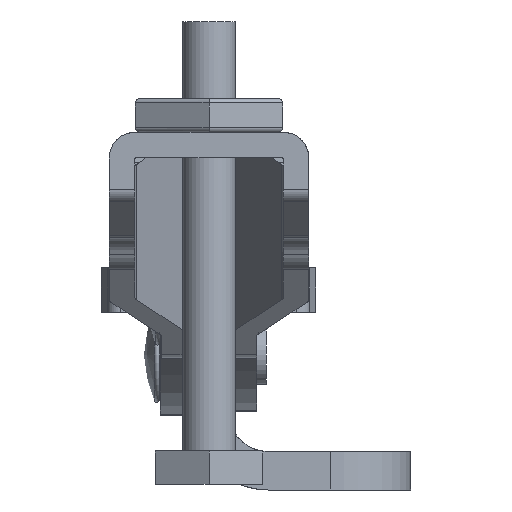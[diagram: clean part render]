
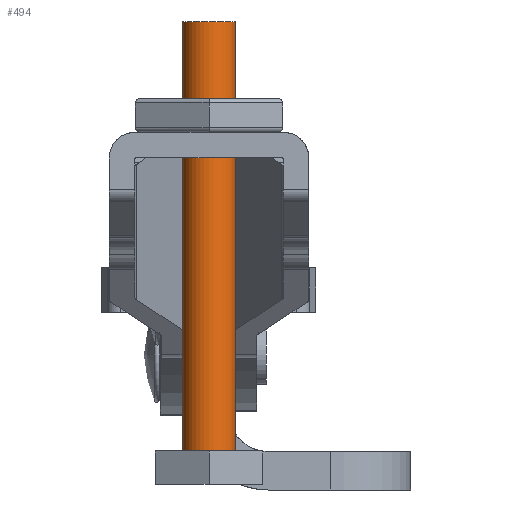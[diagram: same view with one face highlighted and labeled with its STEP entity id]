
A CAD part, left-side view. The second image highlights one B-rep face of the part: STEP entity #494.
In plain terms, the highlighted cylindrical face has radius 1.587 mm (diameter 3.175 mm), a full revolution.
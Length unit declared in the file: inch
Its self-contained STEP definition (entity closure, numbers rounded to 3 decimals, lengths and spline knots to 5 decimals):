
#290=CYLINDRICAL_SURFACE('',#4025,0.0625);
#494=ADVANCED_FACE('',(#1366,#1367),#290,.T.);
#1366=FACE_BOUND('',#1649,.T.);
#1367=FACE_BOUND('',#1650,.T.);
#1649=EDGE_LOOP('',(#2615));
#1650=EDGE_LOOP('',(#2616));
#2615=ORIENTED_EDGE('',*,*,#3445,.T.);
#2616=ORIENTED_EDGE('',*,*,#3446,.T.);
#2962=VERTEX_POINT('',#7029);
#2963=VERTEX_POINT('',#7032);
#3445=EDGE_CURVE('',#2962,#2962,#3610,.T.);
#3446=EDGE_CURVE('',#2963,#2963,#3611,.T.);
#3610=CIRCLE('',#4022,0.0625);
#3611=CIRCLE('',#4024,0.0625);
#4022=AXIS2_PLACEMENT_3D('',#7028,#5039,#5040);
#4024=AXIS2_PLACEMENT_3D('',#7031,#5043,#5044);
#4025=AXIS2_PLACEMENT_3D('',#7033,#5045,#5046);
#5039=DIRECTION('',(0.,0.,1.));
#5040=DIRECTION('',(0.,1.,0.));
#5043=DIRECTION('',(0.,0.,-1.));
#5044=DIRECTION('',(-1.,0.,0.));
#5045=DIRECTION('',(0.,0.,-1.));
#5046=DIRECTION('',(-1.,0.,0.));
#7028=CARTESIAN_POINT('',(-1.0649,0.28318,0.09097));
#7029=CARTESIAN_POINT('',(-1.0649,0.34568,0.09097));
#7031=CARTESIAN_POINT('',(-1.0649,0.28318,1.09097));
#7032=CARTESIAN_POINT('',(-1.1274,0.28318,1.09097));
#7033=CARTESIAN_POINT('',(-1.0649,0.28318,1.09097));
